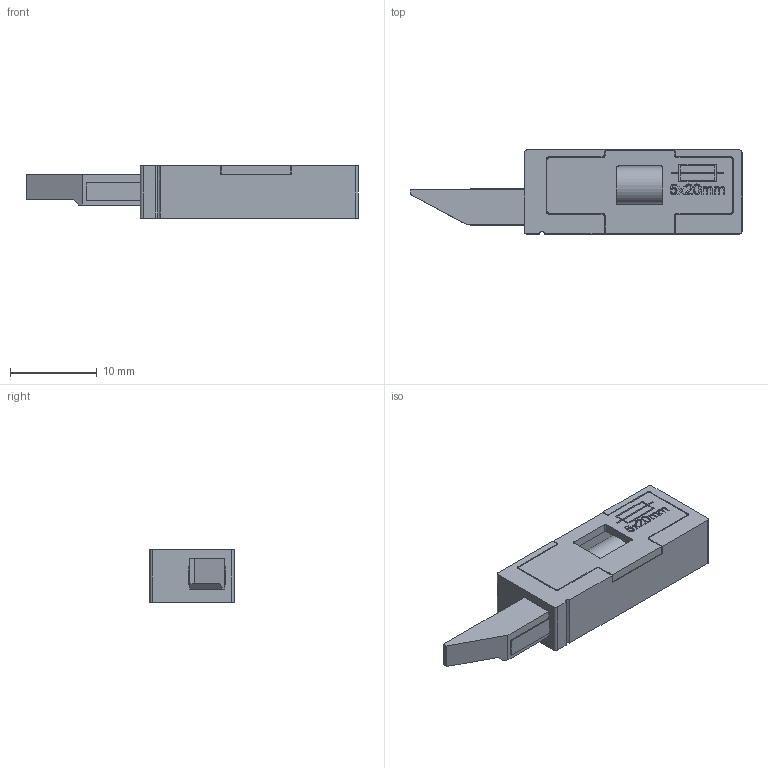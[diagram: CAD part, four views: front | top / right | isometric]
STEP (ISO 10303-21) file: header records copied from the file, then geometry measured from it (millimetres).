
FILE_DESCRIPTION(('STEP AP214'),'2;1');
FILE_NAME('093.63---skin.stp','2010-04-14T10:32:04',(''),(''),'2007.1.106','THINKDESIGN','');
FILE_SCHEMA(('AUTOMOTIVE_DESIGN'));
Length unit declared in the file: millimetre
Products named in the file (1): None
Bounding box: 38.3 x 9.7 x 6.1 mm (x, y, z)
Surface area: 1766.1 mm2 (no closed solid volume)
Topology: 0 solids, 0 shells, 217 faces, 1240 edges, 1240 vertices
Faces by surface type: plane 136, bspline 52, cylinder 29
Full cylindrical faces by diameter (mm): 4.4 x1
Entity records: 17736 total; most frequent: CARTESIAN_POINT 9219, DIRECTION 1362, COMPOSITE_CURVE_SEGMENT 1240, TRIMMED_CURVE 968, VECTOR 908, LINE 908, AXIS2_PLACEMENT_3D 227, OUTER_BOUNDARY_CURVE 217
